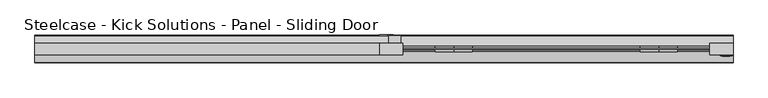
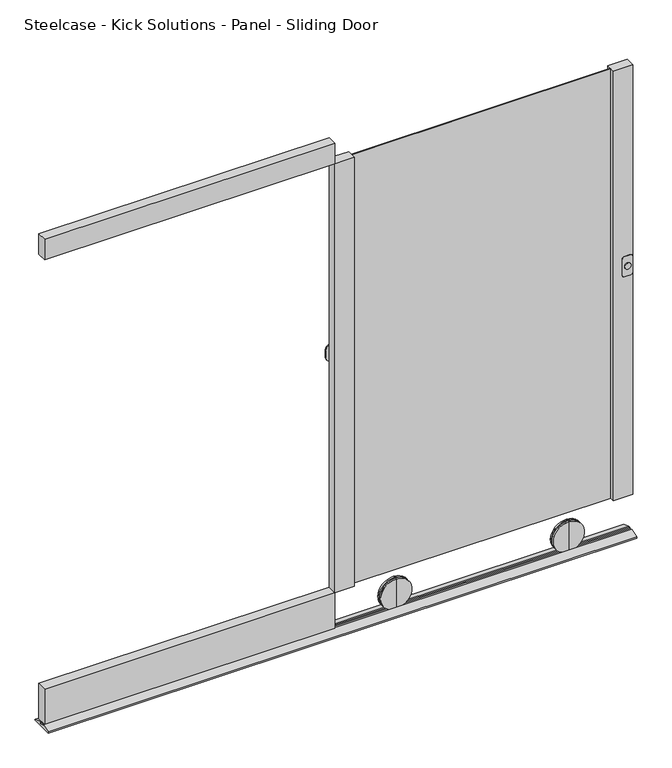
"""IFC4 building model written with IfcOpenShell, lengths in millimetres: furniture geometry, Steelcase - Kick Solutions - Panel - Sliding Door : 66H x 36W - Left Hand with Lock."""

from ifc_helpers import new_model, si_unit, point, frame, frame_2d, origin, place, context, project, spatial, polyline, circle_curve, trimmed, segment, composite_curve, outline, extrude, source, transform, mapped, element, save
from ifc_brep_helpers import plane_surface, cylinder_surface, advanced_brep


def steelcase_kick_solutions_panel_sliding_door_59ac0ae7(model_context):
    return source(origin(), model_context, "Body", "SolidModel", [
        extrude(outline(composite_curve([segment(trimmed(circle_curve(frame_2d((927.2505008, 946.1500484)), 10.2804656), [point((937.5309664, 946.1500484))], [point((916.9700352, 946.1500484))], False, "CARTESIAN"), True, "CONTINUOUS"), segment(trimmed(circle_curve(frame_2d((927.2505008, 946.1500484)), 10.2804656), [point((916.9700352, 946.1500484))], [point((937.5309664, 946.1500484))], False, "CARTESIAN"), True, "CONTINUOUS")], self_intersect=False)), frame((0.0, -46.3394499, 0.0), z_axis=(0.0, 1.0, 0.0), x_axis=(0.0, 0.0, 1.0)), (0.0, 0.0, 1.0), 2.159),
        extrude(outline(composite_curve([segment(polyline([(960.7539028, 956.3923137), (960.7539028, 936.0723137)]), True, "CONTINUOUS"), segment(trimmed(circle_curve(frame_2d((954.4039028, 936.0723137)), 6.35), [point((960.7539028, 936.0723137))], [point((954.4039028, 929.7223137))], False, "CARTESIAN"), True, "CONTINUOUS"), segment(polyline([(954.4039028, 929.7223137), (899.7939028, 929.7223137)]), True, "CONTINUOUS"), segment(trimmed(circle_curve(frame_2d((899.7939028, 936.0723137)), 6.35), [point((899.7939028, 929.7223137))], [point((893.4439028, 936.0723137))], False, "CARTESIAN"), True, "CONTINUOUS"), segment(polyline([(893.4439028, 936.0723137), (893.4439028, 956.3923137)]), True, "CONTINUOUS"), segment(trimmed(circle_curve(frame_2d((899.7939028, 956.3923137)), 6.35), [point((893.4439028, 956.3923137))], [point((899.7939028, 962.7423137))], False, "CARTESIAN"), True, "CONTINUOUS"), segment(polyline([(899.7939028, 962.7423137), (954.4039028, 962.7423137)]), True, "CONTINUOUS"), segment(trimmed(circle_curve(frame_2d((954.4039028, 956.3923137)), 6.35), [point((954.4039028, 962.7423137))], [point((960.7539028, 956.3923137))], False, "CARTESIAN"), True, "CONTINUOUS")], self_intersect=False)), frame((0.0, -44.1804499, 0.0), z_axis=(0.0, 1.0, 0.0), x_axis=(0.0, 0.0, 1.0)), (0.0, 0.0, 1.0), 2.1118392),
        extrude(outline(composite_curve([segment(polyline([(942.3399783, 38.2041062), (955.0399783, 38.2041062), (955.0399783, 22.4914583)]), True, "CONTINUOUS"), segment(trimmed(circle_curve(frame_2d((932.54852, 22.4914583)), 22.4914583), [point((955.0399783, 22.4914583))], [point((932.54852, 0.0))], False, "CARTESIAN"), True, "CONTINUOUS"), segment(polyline([(932.54852, 0.0), (913.3157475, 0.0)]), True, "CONTINUOUS"), segment(trimmed(circle_curve(frame_2d((913.3157475, 21.7757692)), 21.7757692), [point((913.3157475, 0.0))], [point((891.5399783, 21.7757692))], False, "CARTESIAN"), True, "CONTINUOUS"), segment(polyline([(891.5399783, 21.7757692), (891.5399783, 38.2041062), (904.2399783, 38.2041062), (904.2399783, 20.525442)]), True, "CONTINUOUS"), segment(trimmed(circle_curve(frame_2d((911.9613141, 20.525442)), 7.7213358), [point((904.2399783, 20.525442))], [point((911.9613141, 12.8041062))], True, "CARTESIAN"), True, "CONTINUOUS"), segment(polyline([(911.9613141, 12.8041062), (933.6356449, 12.8041062)]), True, "CONTINUOUS"), segment(trimmed(circle_curve(frame_2d((933.6356449, 21.5084396)), 8.7043334), [point((933.6356449, 12.8041062))], [point((942.3399783, 21.5084396))], True, "CARTESIAN"), True, "CONTINUOUS"), segment(polyline([(942.3399783, 21.5084396), (942.3399783, 38.2041062)]), True, "CONTINUOUS")], self_intersect=False)), frame((0.0, 9.7793101, 0.0), z_axis=(0.0, 1.0, 0.0), x_axis=(0.0, 0.0, 1.0)), (0.0, 0.0, 1.0), 2.1118397),
        extrude(outline(polyline([(58.3565349, -10.3186092), (25.3365349, -10.3186092), (25.3365349, 9.7793101), (58.3565349, 9.7793101), (58.3565349, -10.3186092)])), frame((0.0, 0.0, 828.6739028), z_axis=(0.0, 0.0, 1.0), x_axis=(1.0, 0.0, 0.0)), (0.0, 0.0, 1.0), 196.85),
        advanced_brep(
        [(762.0000484, -18.7010906, 6.7959428), (762.0000484, -18.7010906, 108.3959428), (762.0000484, -18.7010906, 57.5959428), (762.0000484, -23.8703628, 6.7959428), (762.0000484, -23.8703628, 108.3959428), (762.0000484, -23.8703628, 57.5959428)],
        [
            (0, 1, circle_curve(frame((762.0000484, -18.7010906, 57.5959428), z_axis=(0.0, 1.0, 0.0), x_axis=(0.0, 0.0, 1.0)), 50.8)),
            (1, 2),
            (2, 0),
            (1, 0, circle_curve(frame((762.0000484, -18.7010906, 57.5959428), z_axis=(0.0, 1.0, 0.0), x_axis=(0.0, 0.0, 1.0)), 50.8)),
            (3, 4, circle_curve(frame((762.0000484, -23.8703628, 57.5959428), z_axis=(0.0, 1.0, 0.0), x_axis=(0.0, 0.0, 1.0)), 50.8)),
            (4, 1),
            (0, 3),
            (4, 3, circle_curve(frame((762.0000484, -23.8703628, 57.5959428), z_axis=(0.0, 1.0, 0.0), x_axis=(0.0, 0.0, 1.0)), 50.8)),
            (5, 4),
            (3, 5),
        ],
        [
            plane_surface(frame((762.0000484, -18.7010906, 57.5959428), z_axis=(0.0, 1.0, 0.0), x_axis=(0.0, 0.0, 1.0))),
            cylinder_surface(frame((762.0000484, -28.422537, 57.5959428), z_axis=(0.0, -1.0, 0.0), x_axis=(0.0, 0.0, 1.0)), 50.8),
            plane_surface(frame((762.0000484, -23.8703628, 57.5959428), z_axis=(0.0, -1.0, 0.0), x_axis=(0.0, 0.0, 1.0))),
        ],
        [
            (0, [[1, 2, 3]]),
            (0, [[4, -3, -2]]),
            (1, [[5, 6, -1, 7]]),
            (1, [[8, -7, -4, -6]]),
            (2, [[9, -5, 10]]),
            (2, [[-10, -8, -9]]),
        ],
    ),
        advanced_brep(
        [(762.0000484, -28.422537, 6.7959428), (762.0000484, -28.422537, 108.3959428), (762.0000484, -28.422537, 57.5959428), (762.0000484, -33.4459111, 6.7959428), (762.0000484, -33.4459111, 108.3959428), (762.0000484, -33.4459111, 57.5959428)],
        [
            (0, 1, circle_curve(frame((762.0000484, -28.422537, 57.5959428), z_axis=(0.0, 1.0, 0.0), x_axis=(0.0, 0.0, 1.0)), 50.8)),
            (1, 2),
            (2, 0),
            (1, 0, circle_curve(frame((762.0000484, -28.422537, 57.5959428), z_axis=(0.0, 1.0, 0.0), x_axis=(0.0, 0.0, 1.0)), 50.8)),
            (3, 4, circle_curve(frame((762.0000484, -33.4459111, 57.5959428), z_axis=(0.0, 1.0, 0.0), x_axis=(0.0, 0.0, 1.0)), 50.8)),
            (4, 1),
            (0, 3),
            (4, 3, circle_curve(frame((762.0000484, -33.4459111, 57.5959428), z_axis=(0.0, 1.0, 0.0), x_axis=(0.0, 0.0, 1.0)), 50.8)),
            (5, 4),
            (3, 5),
        ],
        [
            plane_surface(frame((762.0000484, -28.422537, 57.5959428), z_axis=(0.0, 1.0, 0.0), x_axis=(0.0, 0.0, 1.0))),
            cylinder_surface(frame((762.0000484, -28.422537, 57.5959428), z_axis=(0.0, -1.0, 0.0), x_axis=(0.0, 0.0, 1.0)), 50.8),
            plane_surface(frame((762.0000484, -33.4459111, 57.5959428), z_axis=(0.0, -1.0, 0.0), x_axis=(0.0, 0.0, 1.0))),
        ],
        [
            (0, [[1, 2, 3]]),
            (0, [[4, -3, -2]]),
            (1, [[5, 6, -1, 7]]),
            (1, [[8, -7, -4, -6]]),
            (2, [[9, -5, 10]]),
            (2, [[-10, -8, -9]]),
        ],
    ),
        advanced_brep(
        [(203.2000484, -18.7010906, 6.7959428), (203.2000484, -18.7010906, 108.3959428), (203.2000484, -18.7010906, 57.5959428), (203.2000484, -23.8703628, 6.7959428), (203.2000484, -23.8703628, 108.3959428), (203.2000484, -23.8703628, 57.5959428)],
        [
            (0, 1, circle_curve(frame((203.2000484, -18.7010906, 57.5959428), z_axis=(0.0, 1.0, 0.0), x_axis=(0.0, 0.0, 1.0)), 50.8)),
            (1, 2),
            (2, 0),
            (1, 0, circle_curve(frame((203.2000484, -18.7010906, 57.5959428), z_axis=(0.0, 1.0, 0.0), x_axis=(0.0, 0.0, 1.0)), 50.8)),
            (3, 4, circle_curve(frame((203.2000484, -23.8703628, 57.5959428), z_axis=(0.0, 1.0, 0.0), x_axis=(0.0, 0.0, 1.0)), 50.8)),
            (4, 1),
            (0, 3),
            (4, 3, circle_curve(frame((203.2000484, -23.8703628, 57.5959428), z_axis=(0.0, 1.0, 0.0), x_axis=(0.0, 0.0, 1.0)), 50.8)),
            (5, 4),
            (3, 5),
        ],
        [
            plane_surface(frame((203.2000484, -18.7010906, 57.5959428), z_axis=(0.0, 1.0, 0.0), x_axis=(0.0, 0.0, 1.0))),
            cylinder_surface(frame((203.2000484, -28.422537, 57.5959428), z_axis=(0.0, -1.0, 0.0), x_axis=(0.0, 0.0, 1.0)), 50.8),
            plane_surface(frame((203.2000484, -23.8703628, 57.5959428), z_axis=(0.0, -1.0, 0.0), x_axis=(0.0, 0.0, 1.0))),
        ],
        [
            (0, [[1, 2, 3]]),
            (0, [[4, -3, -2]]),
            (1, [[5, 6, -1, 7]]),
            (1, [[8, -7, -4, -6]]),
            (2, [[9, -5, 10]]),
            (2, [[-10, -8, -9]]),
        ],
    ),
        advanced_brep(
        [(203.2000484, -28.422537, 6.7959428), (203.2000484, -28.422537, 108.3959428), (203.2000484, -28.422537, 57.5959428), (203.2000484, -33.4459111, 6.7959428), (203.2000484, -33.4459111, 108.3959428), (203.2000484, -33.4459111, 57.5959428)],
        [
            (0, 1, circle_curve(frame((203.2000484, -28.422537, 57.5959428), z_axis=(0.0, 1.0, 0.0), x_axis=(0.0, 0.0, 1.0)), 50.8)),
            (1, 2),
            (2, 0),
            (1, 0, circle_curve(frame((203.2000484, -28.422537, 57.5959428), z_axis=(0.0, 1.0, 0.0), x_axis=(0.0, 0.0, 1.0)), 50.8)),
            (3, 4, circle_curve(frame((203.2000484, -33.4459111, 57.5959428), z_axis=(0.0, 1.0, 0.0), x_axis=(0.0, 0.0, 1.0)), 50.8)),
            (4, 1),
            (0, 3),
            (4, 3, circle_curve(frame((203.2000484, -33.4459111, 57.5959428), z_axis=(0.0, 1.0, 0.0), x_axis=(0.0, 0.0, 1.0)), 50.8)),
            (5, 4),
            (3, 5),
        ],
        [
            plane_surface(frame((203.2000484, -28.422537, 57.5959428), z_axis=(0.0, 1.0, 0.0), x_axis=(0.0, 0.0, 1.0))),
            cylinder_surface(frame((203.2000484, -28.422537, 57.5959428), z_axis=(0.0, -1.0, 0.0), x_axis=(0.0, 0.0, 1.0)), 50.8),
            plane_surface(frame((203.2000484, -33.4459111, 57.5959428), z_axis=(0.0, -1.0, 0.0), x_axis=(0.0, 0.0, 1.0))),
        ],
        [
            (0, [[1, 2, 3]]),
            (0, [[4, -3, -2]]),
            (1, [[5, 6, -1, 7]]),
            (1, [[8, -7, -4, -6]]),
            (2, [[9, -5, 10]]),
            (2, [[-10, -8, -9]]),
        ],
    ),
        extrude(outline(polyline([(63.5000484, -42.0686107), (0.0, -42.0686107), (0.0, -10.3186092), (63.5000484, -10.3186092), (63.5000484, -42.0686107)])), frame((0.0, 0.0, 137.1589063), z_axis=(0.0, 0.0, 1.0), x_axis=(1.0, 0.0, 0.0)), (0.0, 0.0, 1.0), 1469.3911421),
        extrude(outline(polyline([(965.2, -42.0686107), (901.7000484, -42.0686107), (901.7000484, -10.3186092), (965.2, -10.3186092), (965.2, -42.0686107)])), frame((0.0, 0.0, 137.1589063), z_axis=(0.0, 0.0, 1.0), x_axis=(1.0, 0.0, 0.0)), (0.0, 0.0, 1.0), 1469.3911421),
        extrude(outline(polyline([(-24.2505784, 6.2879429), (-17.9005799, 6.2879429), (-17.9005799, 12.2490843), (10.0049365, 3.0138476), (11.9383101, 0.0), (-64.2312094, 0.0), (-62.2978359, 3.0138476), (-34.3923194, 12.2490843), (-34.3923194, 6.2879429), (-28.042321, 6.2879429), (-28.042321, 12.6379425), (-24.2505784, 12.6379425), (-24.2505784, 6.2879429)])), frame((-939.8, 0.0, 0.0), z_axis=(1.0, 0.0, 0.0), x_axis=(0.0, 1.0, 0.0)), (0.0, 0.0, 1.0), 1905.0),
        extrude(outline(polyline([(0.0, -10.3186092), (0.0, -42.0686107), (-939.8, -42.0686107), (-939.8, -10.3186092), (0.0, -10.3186092)])), frame((0.0, 0.0, 16.5089033), z_axis=(0.0, 0.0, 1.0), x_axis=(1.0, 0.0, 0.0)), (0.0, 0.0, 1.0), 120.650003),
        extrude(outline(polyline([(0.0, -10.3186092), (0.0, -42.0686107), (-939.8, -42.0686107), (-939.8, -10.3186092), (0.0, -10.3186092)])), frame((0.0, 0.0, 1606.5500484), z_axis=(0.0, 0.0, 1.0), x_axis=(1.0, 0.0, 0.0)), (0.0, 0.0, 1.0), 69.8499516),
        extrude(outline(polyline([(901.7000484, -27.6369762), (63.5000484, -27.6369762), (63.5000484, -24.6559232), (901.7000484, -24.6559232), (901.7000484, -27.6369762)])), frame((0.0, 0.0, 137.1589063), z_axis=(0.0, 0.0, 1.0), x_axis=(1.0, 0.0, 0.0)), (0.0, 0.0, 1.0), 1469.3911421),
    ])


if __name__ == "__main__":
    model = new_model("IFC4")
    model_context = context("Model", 3, world=origin())
    ifc_project = project(units=[si_unit("LENGTHUNIT", "METRE", prefix="MILLI")], contexts=[model_context])
    site = spatial("IfcSite", under=ifc_project)
    building = spatial("IfcBuilding", under=site)
    placement = place(None, origin())
    steelcase_kick_solutions_panel_sliding_door_shape = steelcase_kick_solutions_panel_sliding_door_59ac0ae7(model_context)
    element("IfcFurniture", 1, ObjectType="Steelcase - Kick Solutions - Panel - Sliding Door : 66H x 36W - Left Hand with Lock", at=placement, inside=building, context=model_context, shape_type="MappedRepresentation", body=[
        mapped(steelcase_kick_solutions_panel_sliding_door_shape, transform((0.0, 0.0, 0.0), x_axis=(1.0, 0.0, 0.0), y_axis=(0.0, 1.0, 0.0), z_axis=(0.0, 0.0, 1.0))),
    ])
    save(model, "model.ifc")
